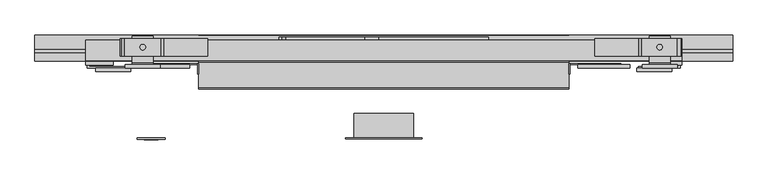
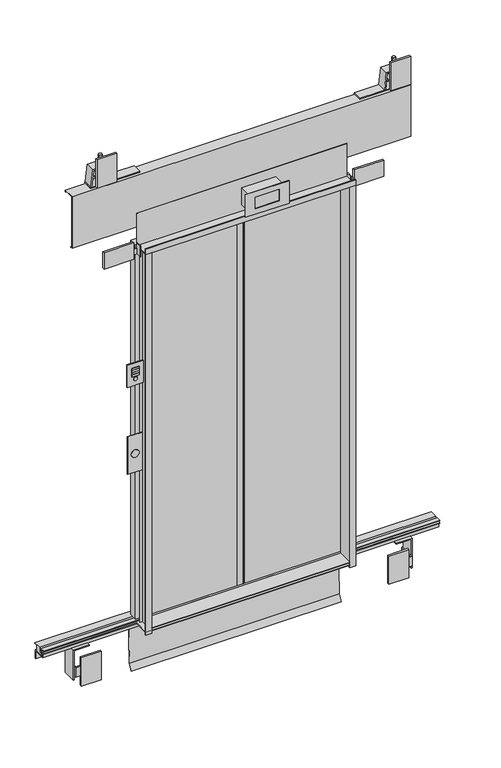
"""IFC4 building model written with IfcOpenShell, lengths in millimetres: proxy geometry, SHLZ_Дверь_0621Е_0411 : SHLZ_Дверь_0621Е_0411."""

from ifc_helpers import new_model, si_unit, point, frame, frame_2d, origin, origin_with_axes, place, context, project, spatial, polyline, circle_curve, trimmed, segment, composite_curve, outline, extrude, faceted_brep, source, transform, mapped, element, save
from ifc_brep_helpers import plane_surface, cylinder_surface, revolved_surface, advanced_brep


def generic_models_938a0e69(model_context):
    return source(origin(), model_context, "Body", "SolidModel", [
        extrude(outline(polyline([(-515.0, 20.0), (-500.0, 20.0), (-500.0, -60.0), (-530.0, -60.0), (-530.0, -57.0), (-503.0, -57.0), (-503.0, 17.0), (-515.0, 17.0), (-515.0, 20.0)])), frame((0.0, 0.0, -30.0), z_axis=(0.0, 0.0, 1.0), x_axis=(1.0, 0.0, 0.0)), (0.0, 0.0, 1.0), 2030.0),
        extrude(outline(polyline([(-57.0, 2030.0), (-57.0, 2003.0), (17.0, 2003.0), (17.0, 2175.0), (20.0, 2175.0), (20.0, 2000.0), (-60.0, 2000.0), (-60.0, 2030.0), (-57.0, 2030.0)])), frame((-530.0, 0.0, 0.0), z_axis=(1.0, 0.0, 0.0), x_axis=(0.0, 1.0, 0.0)), (0.0, 0.0, 1.0), 1060.0),
        extrude(outline(polyline([(-706.3, -200.0), (-626.3, -200.0), (-626.3, -204.0), (-706.3, -204.0), (-706.3, -200.0)])), frame((0.0, 0.0, 1440.0), z_axis=(0.0, 0.0, 1.0), x_axis=(1.0, 0.0, 0.0)), (0.0, 0.0, 1.0), 120.0),
        extrude(outline(composite_curve([segment(trimmed(circle_curve(frame_2d((1476.0113201, -666.3)), 10.0), [point((1476.0113201, -676.3))], [point((1476.0113201, -656.3))], False, "CARTESIAN"), True, "CONTINUOUS"), segment(trimmed(circle_curve(frame_2d((1476.0113201, -666.3)), 10.0), [point((1476.0113201, -656.3))], [point((1476.0113201, -676.3))], False, "CARTESIAN"), True, "CONTINUOUS")], self_intersect=False)), frame((0.0, -206.0, 0.0), z_axis=(0.0, 1.0, 0.0), x_axis=(0.0, 0.0, 1.0)), (0.0, 0.0, 1.0), 2.0),
        extrude(outline(polyline([(-686.3, -206.0), (-686.3, -204.0), (-646.3, -204.0), (-646.3, -206.0), (-686.3, -206.0)])), frame((0.0, 0.0, 1502.3637345), z_axis=(0.0, 0.0, 1.0), x_axis=(1.0, 0.0, 0.0)), (0.0, 0.0, 1.0), 10.0),
        extrude(outline(polyline([(-686.3, -206.0), (-686.3, -204.0), (-646.3, -204.0), (-646.3, -206.0), (-686.3, -206.0)])), frame((0.0, 0.0, 1490.6113201), z_axis=(0.0, 0.0, 1.0), x_axis=(1.0, 0.0, 0.0)), (0.0, 0.0, 1.0), 10.0),
        extrude(outline(polyline([(-686.3, -206.0), (-686.3, -204.0), (-646.3, -204.0), (-646.3, -206.0), (-686.3, -206.0)])), frame((0.0, 0.0, 1514.1161488), z_axis=(0.0, 0.0, 1.0), x_axis=(1.0, 0.0, 0.0)), (0.0, 0.0, 1.0), 10.0),
        extrude(outline(polyline([(-686.3, -206.0), (-686.3, -204.0), (-646.3, -204.0), (-646.3, -206.0), (-686.3, -206.0)])), frame((0.0, 0.0, 1525.8685632), z_axis=(0.0, 0.0, 1.0), x_axis=(1.0, 0.0, 0.0)), (0.0, 0.0, 1.0), 10.0),
        extrude(outline(polyline([(-703.5601691, -202.0), (-703.5601691, -200.0), (-629.0398309, -200.0), (-629.0398309, -202.0), (-703.5601691, -202.0)])), frame((0.0, 0.0, 975.0), z_axis=(0.0, 0.0, 1.0), x_axis=(1.0, 0.0, 0.0)), (0.0, 0.0, 1.0), 200.0),
        extrude(outline(composite_curve([segment(trimmed(circle_curve(frame_2d((1075.0, -666.3)), 20.0), [point((1075.0, -646.3))], [point((1075.0, -686.3))], False, "CARTESIAN"), True, "CONTINUOUS"), segment(trimmed(circle_curve(frame_2d((1075.0, -666.3)), 20.0), [point((1075.0, -686.3))], [point((1075.0, -646.3))], False, "CARTESIAN"), True, "CONTINUOUS")], self_intersect=False)), frame((0.0, -204.0226285, 0.0), z_axis=(0.0, 1.0, 0.0), x_axis=(0.0, 0.0, 1.0)), (0.0, 0.0, 1.0), 2.0226285),
        extrude(outline(polyline([(-706.0, 10.0), (-556.0, 10.0), (-556.0, 0.0), (-706.0, 0.0), (-706.0, 10.0)])), frame((0.0, 0.0, 1949.5), z_axis=(0.0, 0.0, 1.0), x_axis=(1.0, 0.0, 0.0)), (0.0, 0.0, 1.0), 87.0),
        faceted_brep([(-530.0, -17.0, 2021.5), (-533.0, -17.0, 2021.5), (-533.0, -17.0, 1964.5), (-530.0, -17.0, 1964.5), (-680.0, 13.0, 2021.5), (-560.0, 13.0, 2021.5), (-560.0, 13.0, 1994.5), (-533.0, 13.0, 1994.5), (-533.0, 13.0, 2021.5), (-530.0, 13.0, 2021.5), (-530.0, 13.0, 1964.5), (-680.0, 13.0, 1964.5), (-680.0, 10.0, 2021.5), (-560.0, 10.0, 2021.5), (-533.0, 10.0, 1964.5), (-680.0, 10.0, 1964.5), (-533.0, 10.0, 1994.5), (-560.0, 10.0, 1994.5)], [[[0, 1, 2, 3]], [[4, 5, 6, 7, 8, 9, 10, 11]], [[9, 8, 1, 0]], [[12, 13, 5, 4]], [[3, 10, 9, 0]], [[10, 3, 2, 14, 15, 11]], [[11, 15, 12, 4]], [[14, 16, 17, 13, 12, 15]], [[1, 8, 7, 16, 14, 2]], [[7, 6, 17, 16]], [[6, 5, 13, 17]]]),
        extrude(outline(polyline([(706.0, 10.0), (706.0, 0.0), (556.0, 0.0), (556.0, 10.0), (706.0, 10.0)])), frame((0.0, 0.0, 1949.5), z_axis=(0.0, 0.0, 1.0), x_axis=(1.0, 0.0, 0.0)), (0.0, 0.0, 1.0), 87.0),
        faceted_brep([(530.0, -17.0, 2021.5), (530.0, -17.0, 1964.5), (533.0, -17.0, 1964.5), (533.0, -17.0, 2021.5), (680.0, 13.0, 2021.5), (680.0, 13.0, 1964.5), (530.0, 13.0, 1964.5), (530.0, 13.0, 2021.5), (533.0, 13.0, 2021.5), (533.0, 13.0, 1994.5), (560.0, 13.0, 1994.5), (560.0, 13.0, 2021.5), (680.0, 10.0, 2021.5), (560.0, 10.0, 2021.5), (680.0, 10.0, 1964.5), (533.0, 10.0, 1964.5), (560.0, 10.0, 1994.5), (533.0, 10.0, 1994.5)], [[[0, 1, 2, 3]], [[4, 5, 6, 7, 8, 9, 10, 11]], [[12, 4, 11, 13]], [[7, 0, 3, 8]], [[1, 0, 7, 6]], [[6, 5, 14, 15, 2, 1]], [[5, 4, 12, 14]], [[15, 14, 12, 13, 16, 17]], [[3, 2, 15, 17, 9, 8]], [[9, 17, 16, 10]], [[10, 16, 13, 11]]]),
        advanced_brep(
        [(-683.0, 60.0, 2410.0), (-699.0, 60.0, 2410.0), (-699.0, 60.0, 2415.0), (-683.0, 60.0, 2415.0), (-661.0, 92.0, 2410.0), (-661.0, 92.0, 2415.0), (-661.0, 15.0, 2415.0), (-661.0, 15.0, 2530.0), (-661.0, 10.0, 2530.0), (-661.0, 10.0, 2410.0), (-721.0, 92.0, 2415.0), (-721.0, 92.0, 2410.0), (-721.0, 10.0, 2530.0), (-721.0, 15.0, 2530.0), (-721.0, 10.0, 2410.0), (-721.0, 15.0, 2415.0)],
        [
            (0, 1, circle_curve(frame((-691.0, 60.0, 2410.0), z_axis=(0.0, 0.0, -1.0), x_axis=(-1.0, 0.0, 0.0)), 8.0)),
            (1, 2),
            (2, 3, circle_curve(frame((-691.0, 60.0, 2415.0), z_axis=(0.0, 0.0, 1.0), x_axis=(-1.0, 0.0, 0.0)), 8.0)),
            (3, 0),
            (4, 5),
            (5, 6),
            (6, 7),
            (7, 8),
            (8, 9),
            (9, 4),
            (10, 5),
            (4, 11),
            (11, 10),
            (12, 8),
            (7, 13),
            (13, 12),
            (11, 14),
            (14, 12),
            (13, 15),
            (15, 10),
            (15, 6),
            (2, 3, circle_curve(frame((-691.0, 60.0, 2415.0), z_axis=(0.0, 0.0, -1.0), x_axis=(-1.0, 0.0, 0.0)), 8.0)),
            (14, 9),
            (0, 1, circle_curve(frame((-691.0, 60.0, 2410.0), z_axis=(0.0, 0.0, 1.0), x_axis=(-1.0, 0.0, 0.0)), 8.0)),
        ],
        [
            revolved_surface(polyline([(-699.0, 60.0, 2415.0), (-699.0, 60.0, 2410.0)]), (-691.0, 60.0, 2385.0), (0.0, 0.0, 1.0)),
            plane_surface(frame((-661.0, 92.0, 2415.0), z_axis=(1.0, 0.0, 0.0), x_axis=(0.0, 0.0, -1.0))),
            plane_surface(frame((-721.0, 92.0, 2410.0), z_axis=(0.0, 1.0, 0.0), x_axis=(1.0, 0.0, 0.0))),
            plane_surface(frame((-721.0, 15.0, 2530.0), z_axis=(0.0, 0.0, 1.0), x_axis=(1.0, 0.0, 0.0))),
            plane_surface(frame((-721.0, 92.0, 2415.0), z_axis=(-1.0, 0.0, 0.0), x_axis=(0.0, 0.0, 1.0))),
            plane_surface(frame((-721.0, 92.0, 2415.0), z_axis=(0.0, 0.0, 1.0), x_axis=(1.0, 0.0, 0.0))),
            plane_surface(frame((-721.0, 15.0, 2415.0), z_axis=(0.0, 1.0, 0.0), x_axis=(1.0, 0.0, 0.0))),
            plane_surface(frame((-721.0, 10.0, 2530.0), z_axis=(0.0, -1.0, 0.0), x_axis=(1.0, 0.0, 0.0))),
            plane_surface(frame((-721.0, 10.0, 2410.0), z_axis=(0.0, 0.0, -1.0), x_axis=(1.0, 0.0, 0.0))),
        ],
        [
            (0, [[1, 2, 3, 4]]),
            (1, [[5, 6, 7, 8, 9, 10]]),
            (2, [[11, -5, 12, 13]]),
            (3, [[14, -8, 15, 16]]),
            (4, [[17, 18, -16, 19, 20, -13]]),
            (5, [[21, -6, -11, -20], [22, -3]]),
            (6, [[-15, -7, -21, -19]]),
            (7, [[23, -9, -14, -18]]),
            (8, [[-12, -10, -23, -17], [24, -1]]),
            (0, [[-22, -2, -24, -4]]),
        ],
    ),
        extrude(outline(polyline([(-741.0, 10.0), (-641.0, 10.0), (-641.0, 0.0), (-741.0, 0.0), (-741.0, 10.0)])), frame((0.0, 0.0, 2394.0), z_axis=(0.0, 0.0, 1.0), x_axis=(1.0, 0.0, 0.0)), (0.0, 0.0, 1.0), 150.0),
        extrude(outline(polyline([(-755.0, 35.0), (-755.0, 85.0), (-505.0, 85.0), (-505.0, 35.0), (-755.0, 35.0)])), frame((0.0, 0.0, 2375.0), z_axis=(0.0, 0.0, 1.0), x_axis=(1.0, 0.0, 0.0)), (0.0, 0.0, 1.0), 5.0),
        advanced_brep(
        [(-635.0, 35.0, 2380.0), (-635.0, 85.0, 2380.0), (-630.0, 85.0, 2380.0), (-630.0, 35.0, 2380.0), (-699.0, 60.0, 2521.0), (-699.0, 60.0, 2470.0), (-683.0, 60.0, 2470.0), (-683.0, 60.0, 2521.0), (-683.0, 60.0, 2385.0), (-683.0, 60.0, 2465.0), (-699.0, 60.0, 2465.0), (-699.0, 60.0, 2385.0), (-644.3, 35.0, 2465.0), (-639.8470588, 35.0, 2470.0), (-742.1529412, 35.0, 2470.0), (-752.0, 35.0, 2380.0), (-747.0, 35.0, 2380.0), (-737.7, 35.0, 2465.0), (-644.3, 85.0, 2465.0), (-737.7, 85.0, 2465.0), (-747.0, 85.0, 2380.0), (-752.0, 85.0, 2380.0), (-742.1529412, 85.0, 2470.0), (-639.8470588, 85.0, 2470.0)],
        [
            (0, 1),
            (1, 2),
            (2, 3),
            (3, 0),
            (4, 5),
            (5, 6, circle_curve(frame((-691.0, 60.0, 2470.0), z_axis=(0.0, 0.0, 1.0), x_axis=(-1.0, 0.0, 0.0)), 8.0)),
            (6, 7),
            (7, 4, circle_curve(frame((-691.0, 60.0, 2521.0), z_axis=(0.0, 0.0, -1.0), x_axis=(-1.0, 0.0, 0.0)), 8.0)),
            (8, 9),
            (9, 10, circle_curve(frame((-691.0, 60.0, 2465.0), z_axis=(0.0, 0.0, -1.0), x_axis=(-1.0, 0.0, 0.0)), 8.0)),
            (10, 11),
            (11, 8, circle_curve(frame((-691.0, 60.0, 2385.0), z_axis=(0.0, 0.0, 1.0), x_axis=(-1.0, 0.0, 0.0)), 8.0)),
            (6, 5, circle_curve(frame((-691.0, 60.0, 2470.0), z_axis=(0.0, 0.0, 1.0), x_axis=(-1.0, 0.0, 0.0)), 8.0)),
            (4, 7, circle_curve(frame((-691.0, 60.0, 2521.0), z_axis=(0.0, 0.0, -1.0), x_axis=(-1.0, 0.0, 0.0)), 8.0)),
            (10, 9, circle_curve(frame((-691.0, 60.0, 2465.0), z_axis=(0.0, 0.0, -1.0), x_axis=(-1.0, 0.0, 0.0)), 8.0)),
            (8, 11, circle_curve(frame((-691.0, 60.0, 2385.0), z_axis=(0.0, 0.0, 1.0), x_axis=(-1.0, 0.0, 0.0)), 8.0)),
            (12, 0),
            (3, 13),
            (13, 14),
            (14, 15),
            (15, 16),
            (16, 17),
            (17, 12),
            (18, 19),
            (19, 20),
            (20, 21),
            (21, 22),
            (22, 23),
            (23, 2),
            (1, 18),
            (17, 19),
            (18, 12),
            (16, 20),
            (15, 21),
            (14, 22),
            (13, 23),
        ],
        [
            plane_surface(frame((-630.0, 35.0, 2380.0), z_axis=(0.0, 0.0, -1.0), x_axis=(0.0, 1.0, 0.0))),
            cylinder_surface(frame((-691.0, 60.0, 2385.0), z_axis=(0.0, 0.0, 1.0), x_axis=(-1.0, 0.0, 0.0)), 8.0),
            plane_surface(frame((-644.3, 35.0, 2465.0), z_axis=(0.0, -1.0, 0.0), x_axis=(-1.0, 0.0, 0.0))),
            plane_surface(frame((-644.3, 85.0, 2465.0), z_axis=(0.0, 1.0, 0.0), x_axis=(1.0, 0.0, 0.0))),
            plane_surface(frame((-644.3, 35.0, 2465.0), z_axis=(0.0, 0.0, -1.0), x_axis=(0.0, 1.0, 0.0))),
            plane_surface(frame((-737.7, 35.0, 2465.0), z_axis=(0.9940677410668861, 0.0, -0.1087627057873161), x_axis=(0.0, 1.0, 0.0))),
            plane_surface(frame((-747.0, 35.0, 2380.0), z_axis=(0.0, 0.0, -1.0), x_axis=(0.0, 1.0, 0.0))),
            plane_surface(frame((-752.0, 35.0, 2380.0), z_axis=(-0.9940677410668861, 0.0, 0.10876270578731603), x_axis=(0.0, 1.0, 0.0))),
            plane_surface(frame((-742.1529412, 35.0, 2470.0), z_axis=(0.0, 0.0, 1.0), x_axis=(0.0, 1.0, 0.0))),
            plane_surface(frame((-639.8470588, 35.0, 2470.0), z_axis=(0.9940677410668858, 0.0, 0.10876270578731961), x_axis=(0.0, 1.0, 0.0))),
            plane_surface(frame((-635.0, 35.0, 2380.0), z_axis=(-0.9940677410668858, 0.0, -0.10876270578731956), x_axis=(0.0, 1.0, 0.0))),
            plane_surface(frame((-699.0, 60.0, 2521.0), z_axis=(0.0, 0.0, 1.0), x_axis=(0.0, 1.0, 0.0))),
            plane_surface(frame((-699.0, 60.0, 2385.0), z_axis=(0.0, 0.0, -1.0), x_axis=(0.0, -1.0, 0.0))),
        ],
        [
            (0, [[1, 2, 3, 4]]),
            (1, [[5, 6, 7, 8]]),
            (1, [[9, 10, 11, 12]]),
            (1, [[-7, 13, -5, 14]]),
            (1, [[-11, 15, -9, 16]]),
            (2, [[17, -4, 18, 19, 20, 21, 22, 23]]),
            (3, [[24, 25, 26, 27, 28, 29, -2, 30]]),
            (4, [[31, -24, 32, -23], [-15, -10]]),
            (5, [[33, -25, -31, -22]]),
            (6, [[34, -26, -33, -21]]),
            (7, [[35, -27, -34, -20]]),
            (8, [[36, -28, -35, -19], [-13, -6]]),
            (9, [[-3, -29, -36, -18]]),
            (10, [[-32, -30, -1, -17]]),
            (11, [[-14, -8]]),
            (12, [[-12, -16]]),
        ],
    ),
        advanced_brep(
        [(783.0, 60.0, 2410.0), (783.0, 60.0, 2415.0), (799.0, 60.0, 2415.0), (799.0, 60.0, 2410.0), (761.0, 92.0, 2410.0), (761.0, 10.0, 2410.0), (761.0, 10.0, 2530.0), (761.0, 15.0, 2530.0), (761.0, 15.0, 2415.0), (761.0, 92.0, 2415.0), (821.0, 92.0, 2415.0), (821.0, 92.0, 2410.0), (821.0, 10.0, 2530.0), (821.0, 15.0, 2530.0), (821.0, 15.0, 2415.0), (821.0, 10.0, 2410.0)],
        [
            (0, 1),
            (1, 2, circle_curve(frame((791.0, 60.0, 2415.0), z_axis=(0.0, 0.0, 1.0), x_axis=(1.0, 0.0, 0.0)), 8.0)),
            (2, 3),
            (3, 0, circle_curve(frame((791.0, 60.0, 2410.0), z_axis=(0.0, 0.0, -1.0), x_axis=(1.0, 0.0, 0.0)), 8.0)),
            (4, 5),
            (5, 6),
            (6, 7),
            (7, 8),
            (8, 9),
            (9, 4),
            (10, 11),
            (11, 4),
            (9, 10),
            (12, 13),
            (13, 7),
            (6, 12),
            (10, 14),
            (14, 13),
            (12, 15),
            (15, 11),
            (8, 14),
            (1, 2, circle_curve(frame((791.0, 60.0, 2415.0), z_axis=(0.0, 0.0, -1.0), x_axis=(1.0, 0.0, 0.0)), 8.0)),
            (5, 15),
            (3, 0, circle_curve(frame((791.0, 60.0, 2410.0), z_axis=(0.0, 0.0, 1.0), x_axis=(1.0, 0.0, 0.0)), 8.0)),
        ],
        [
            revolved_surface(polyline([(799.0, 60.0, 2415.0), (799.0, 60.0, 2410.0)]), (791.0, 60.0, 2385.0), (0.0, 0.0, 1.0)),
            plane_surface(frame((761.0, 92.0, 2415.0), z_axis=(-1.0, 0.0, 0.0), x_axis=(0.0, 0.0, -1.0))),
            plane_surface(frame((821.0, 92.0, 2410.0), z_axis=(0.0, 1.0, 0.0), x_axis=(-1.0, 0.0, 0.0))),
            plane_surface(frame((821.0, 15.0, 2530.0), z_axis=(0.0, 0.0, 1.0), x_axis=(-1.0, 0.0, 0.0))),
            plane_surface(frame((821.0, 92.0, 2415.0), z_axis=(1.0, 0.0, 0.0), x_axis=(0.0, 0.0, 1.0))),
            plane_surface(frame((821.0, 92.0, 2415.0), z_axis=(0.0, 0.0, 1.0), x_axis=(-1.0, 0.0, 0.0))),
            plane_surface(frame((821.0, 15.0, 2415.0), z_axis=(0.0, 1.0, 0.0), x_axis=(-1.0, 0.0, 0.0))),
            plane_surface(frame((821.0, 10.0, 2530.0), z_axis=(0.0, -1.0, 0.0), x_axis=(-1.0, 0.0, 0.0))),
            plane_surface(frame((821.0, 10.0, 2410.0), z_axis=(0.0, 0.0, -1.0), x_axis=(-1.0, 0.0, 0.0))),
        ],
        [
            (0, [[1, 2, 3, 4]]),
            (1, [[5, 6, 7, 8, 9, 10]]),
            (2, [[11, 12, -10, 13]]),
            (3, [[14, 15, -7, 16]]),
            (4, [[-11, 17, 18, -14, 19, 20]]),
            (5, [[-17, -13, -9, 21], [-2, 22]]),
            (6, [[-18, -21, -8, -15]]),
            (7, [[-19, -16, -6, 23]]),
            (8, [[-20, -23, -5, -12], [-4, 24]]),
            (0, [[-1, -24, -3, -22]]),
        ],
    ),
        extrude(outline(polyline([(841.0, 10.0), (841.0, 0.0), (741.0, 0.0), (741.0, 10.0), (841.0, 10.0)])), frame((0.0, 0.0, 2394.0), z_axis=(0.0, 0.0, 1.0), x_axis=(1.0, 0.0, 0.0)), (0.0, 0.0, 1.0), 150.0),
        extrude(outline(polyline([(855.0, 35.0), (605.0, 35.0), (605.0, 85.0), (855.0, 85.0), (855.0, 35.0)])), frame((0.0, 0.0, 2375.0), z_axis=(0.0, 0.0, 1.0), x_axis=(1.0, 0.0, 0.0)), (0.0, 0.0, 1.0), 5.0),
        advanced_brep(
        [(735.0, 35.0, 2380.0), (730.0, 35.0, 2380.0), (730.0, 85.0, 2380.0), (735.0, 85.0, 2380.0), (799.0, 60.0, 2521.0), (783.0, 60.0, 2521.0), (783.0, 60.0, 2470.0), (799.0, 60.0, 2470.0), (783.0, 60.0, 2385.0), (799.0, 60.0, 2385.0), (799.0, 60.0, 2465.0), (783.0, 60.0, 2465.0), (744.3, 35.0, 2465.0), (837.7, 35.0, 2465.0), (847.0, 35.0, 2380.0), (852.0, 35.0, 2380.0), (842.1529412, 35.0, 2470.0), (739.8470588, 35.0, 2470.0), (744.3, 85.0, 2465.0), (739.8470588, 85.0, 2470.0), (842.1529412, 85.0, 2470.0), (852.0, 85.0, 2380.0), (847.0, 85.0, 2380.0), (837.7, 85.0, 2465.0)],
        [
            (0, 1),
            (1, 2),
            (2, 3),
            (3, 0),
            (4, 5, circle_curve(frame((791.0, 60.0, 2521.0), z_axis=(0.0, 0.0, -1.0), x_axis=(1.0, 0.0, 0.0)), 8.0)),
            (5, 6),
            (6, 7, circle_curve(frame((791.0, 60.0, 2470.0), z_axis=(0.0, 0.0, 1.0), x_axis=(1.0, 0.0, 0.0)), 8.0)),
            (7, 4),
            (8, 9, circle_curve(frame((791.0, 60.0, 2385.0), z_axis=(0.0, 0.0, 1.0), x_axis=(1.0, 0.0, 0.0)), 8.0)),
            (9, 10),
            (10, 11, circle_curve(frame((791.0, 60.0, 2465.0), z_axis=(0.0, 0.0, -1.0), x_axis=(1.0, 0.0, 0.0)), 8.0)),
            (11, 8),
            (5, 4, circle_curve(frame((791.0, 60.0, 2521.0), z_axis=(0.0, 0.0, -1.0), x_axis=(1.0, 0.0, 0.0)), 8.0)),
            (7, 6, circle_curve(frame((791.0, 60.0, 2470.0), z_axis=(0.0, 0.0, 1.0), x_axis=(1.0, 0.0, 0.0)), 8.0)),
            (9, 8, circle_curve(frame((791.0, 60.0, 2385.0), z_axis=(0.0, 0.0, 1.0), x_axis=(1.0, 0.0, 0.0)), 8.0)),
            (11, 10, circle_curve(frame((791.0, 60.0, 2465.0), z_axis=(0.0, 0.0, -1.0), x_axis=(1.0, 0.0, 0.0)), 8.0)),
            (12, 13),
            (13, 14),
            (14, 15),
            (15, 16),
            (16, 17),
            (17, 1),
            (0, 12),
            (18, 3),
            (2, 19),
            (19, 20),
            (20, 21),
            (21, 22),
            (22, 23),
            (23, 18),
            (12, 18),
            (23, 13),
            (22, 14),
            (21, 15),
            (20, 16),
            (19, 17),
        ],
        [
            plane_surface(frame((730.0, 35.0, 2380.0), z_axis=(0.0, 0.0, -1.0), x_axis=(0.0, 1.0, 0.0))),
            cylinder_surface(frame((791.0, 60.0, 2385.0), z_axis=(0.0, 0.0, 1.0), x_axis=(1.0, 0.0, 0.0)), 8.0),
            plane_surface(frame((744.3, 35.0, 2465.0), z_axis=(0.0, -1.0, 0.0), x_axis=(1.0, 0.0, 0.0))),
            plane_surface(frame((744.3, 85.0, 2465.0), z_axis=(0.0, 1.0, 0.0), x_axis=(-1.0, 0.0, 0.0))),
            plane_surface(frame((744.3, 35.0, 2465.0), z_axis=(0.0, 0.0, -1.0), x_axis=(0.0, 1.0, 0.0))),
            plane_surface(frame((837.7, 35.0, 2465.0), z_axis=(-0.9940677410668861, 0.0, -0.1087627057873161), x_axis=(0.0, 1.0, 0.0))),
            plane_surface(frame((847.0, 35.0, 2380.0), z_axis=(0.0, 0.0, -1.0), x_axis=(0.0, 1.0, 0.0))),
            plane_surface(frame((852.0, 35.0, 2380.0), z_axis=(0.9940677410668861, 0.0, 0.10876270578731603), x_axis=(0.0, 1.0, 0.0))),
            plane_surface(frame((842.1529412, 35.0, 2470.0), z_axis=(0.0, 0.0, 1.0), x_axis=(0.0, 1.0, 0.0))),
            plane_surface(frame((739.8470588, 35.0, 2470.0), z_axis=(-0.9940677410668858, 0.0, 0.10876270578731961), x_axis=(0.0, 1.0, 0.0))),
            plane_surface(frame((735.0, 35.0, 2380.0), z_axis=(0.9940677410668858, 0.0, -0.10876270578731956), x_axis=(0.0, 1.0, 0.0))),
            plane_surface(frame((799.0, 60.0, 2521.0), z_axis=(0.0, 0.0, 1.0), x_axis=(0.0, 1.0, 0.0))),
            plane_surface(frame((799.0, 60.0, 2385.0), z_axis=(0.0, 0.0, -1.0), x_axis=(0.0, -1.0, 0.0))),
        ],
        [
            (0, [[1, 2, 3, 4]]),
            (1, [[5, 6, 7, 8]]),
            (1, [[9, 10, 11, 12]]),
            (1, [[13, -8, 14, -6]]),
            (1, [[15, -12, 16, -10]]),
            (2, [[17, 18, 19, 20, 21, 22, -1, 23]]),
            (3, [[24, -3, 25, 26, 27, 28, 29, 30]]),
            (4, [[-17, 31, -30, 32], [-11, -16]]),
            (5, [[-18, -32, -29, 33]]),
            (6, [[-19, -33, -28, 34]]),
            (7, [[-20, -34, -27, 35]]),
            (8, [[-21, -35, -26, 36], [-7, -14]]),
            (9, [[-22, -36, -25, -2]]),
            (10, [[-23, -4, -24, -31]]),
            (11, [[-5, -13]]),
            (12, [[-15, -9]]),
        ],
    ),
        faceted_brep([(-280.0, 88.6, 2315.9), (-280.0, 26.1, 2315.9), (-55.4145188, 26.1, 2315.9), (-55.4145188, 88.6, 2315.9), (-300.0, 26.1, 2070.9), (-300.0, 88.6, 2070.9), (300.0, 88.6, 2070.9), (300.0, 26.1, 2070.9), (-300.0, 26.1, 2155.010593), (-300.0, 58.6, 2155.010593), (-300.0, 58.6, 2203.7582474), (-300.0, 26.1, 2203.7582474), (-300.0, 26.1, 2245.9), (-300.0, 88.6, 2245.9), (-292.3428886, 88.6, 2245.9), (-15.0, 88.6, 2245.9), (300.0, 88.6, 2245.9), (300.0, 26.1, 2245.9), (300.0, 26.1, 2203.7582474), (300.0, 58.6, 2203.7582474), (300.0, 58.6, 2155.010593), (300.0, 26.1, 2155.010593), (-292.3428886, 26.1, 2245.9), (-15.0, 26.1, 2245.9)], [[[0, 1, 2, 3]], [[4, 5, 6, 7]], [[4, 8, 9, 10, 11, 12, 13, 5]], [[5, 13, 14, 0, 3, 15, 16, 6]], [[6, 16, 17, 18, 19, 20, 21, 7]], [[7, 21, 8, 4]], [[1, 22, 12, 11, 18, 17, 23, 2]], [[15, 3, 2, 23]], [[23, 17, 16, 15]], [[14, 13, 12, 22]], [[22, 1, 0, 14]], [[9, 8, 21, 20]], [[20, 19, 10, 9]], [[19, 18, 11, 10]]]),
        extrude(outline(polyline([(800.0, 50.0), (800.0, 40.0), (-775.0, 40.0), (-775.0, 50.0), (800.0, 50.0)])), frame((0.0, 0.0, 2158.0), z_axis=(0.0, 0.0, 1.0), x_axis=(1.0, 0.0, 0.0)), (0.0, 0.0, 1.0), 40.0),
        extrude(outline(polyline([(31.1, 2102.0), (31.1, 2100.0), (21.1, 2100.0), (21.1, 2375.0), (80.1, 2375.0), (80.1, 2365.0), (78.1, 2365.0), (78.1, 2373.0), (23.1, 2373.0), (23.1, 2102.0), (31.1, 2102.0)])), frame((-855.0, 0.0, 0.0), z_axis=(1.0, 0.0, 0.0), x_axis=(0.0, 1.0, 0.0)), (0.0, 0.0, 1.0), 1710.0),
        extrude(outline(polyline([(-18.75, 70.3), (-18.75, 30.3), (-530.0, 30.3), (-530.0, 70.3), (-18.75, 70.3)])), origin_with_axes(), (0.0, 0.0, 1.0), 2000.0),
        extrude(outline(polyline([(18.75, 30.3), (18.75, 70.3), (530.0, 70.3), (530.0, 30.3), (18.75, 30.3)])), origin_with_axes(), (0.0, 0.0, 1.0), 2000.0),
        extrude(outline(polyline([(-43.0, -775.0), (-38.0, -775.0), (-38.0, -855.0), (-198.0, -855.0), (-198.0, -850.0), (-43.0, -850.0), (-43.0, -775.0)])), frame((0.0, 9.5536677, 0.0), z_axis=(0.0, 1.0, 0.0), x_axis=(0.0, 0.0, 1.0)), (0.0, 0.0, 1.0), 70.0),
        extrude(outline(polyline([(-730.0, 0.0), (-850.0, 0.0), (-850.0, 82.0), (-845.0, 82.0), (-845.0, 5.0), (-730.0, 5.0), (-730.0, 0.0)])), frame((0.0, 0.0, -178.0), z_axis=(0.0, 0.0, 1.0), x_axis=(1.0, 0.0, 0.0)), (0.0, 0.0, 1.0), 50.0),
        extrude(outline(polyline([(-826.0, 0.0), (-726.0, 0.0), (-726.0, -10.0), (-826.0, -10.0), (-826.0, 0.0)])), frame((0.0, 0.0, -228.0), z_axis=(0.0, 0.0, 1.0), x_axis=(1.0, 0.0, 0.0)), (0.0, 0.0, 1.0), 150.0),
        extrude(outline(polyline([(-43.0, 775.0), (-43.0, 850.0), (-198.0, 850.0), (-198.0, 855.0), (-38.0, 855.0), (-38.0, 775.0), (-43.0, 775.0)])), frame((0.0, 9.5536677, 0.0), z_axis=(0.0, 1.0, 0.0), x_axis=(0.0, 0.0, 1.0)), (0.0, 0.0, 1.0), 70.0),
        extrude(outline(polyline([(730.0, 0.0), (730.0, 5.0), (845.0, 5.0), (845.0, 82.0), (850.0, 82.0), (850.0, 0.0), (730.0, 0.0)])), frame((0.0, 0.0, -178.0), z_axis=(0.0, 0.0, 1.0), x_axis=(1.0, 0.0, 0.0)), (0.0, 0.0, 1.0), 50.0),
        extrude(outline(polyline([(826.0, 0.0), (826.0, -10.0), (726.0, -10.0), (726.0, 0.0), (826.0, 0.0)])), frame((0.0, 0.0, -228.0), z_axis=(0.0, 0.0, 1.0), x_axis=(1.0, 0.0, 0.0)), (0.0, 0.0, 1.0), 150.0),
        extrude(outline(polyline([(20.0, -3.0), (20.0, 0.0), (43.0675256, 0.0), (43.0675256, -20.0), (54.3, -20.0), (54.3, 0.0), (95.0, 0.0), (95.0, -3.0), (80.0, -3.0), (80.0, -35.0), (34.5, -35.0), (34.5, -3.0), (20.0, -3.0)])), frame((-1000.0, 0.0, 0.0), z_axis=(1.0, 0.0, 0.0), x_axis=(0.0, 1.0, 0.0)), (0.0, 0.0, 1.0), 2000.0),
        faceted_brep([(1000.0, 27.0, -16.0), (1000.0, 27.0, -38.0), (1000.0, 90.0, -38.0), (1000.0, 90.0, -39.4535449), (1000.0, 88.5840866, -80.0), (1000.0, 91.4805978, -80.0), (1000.0, 93.0, -36.4900133), (1000.0, 93.0, -35.0), (1000.0, 30.0, -35.0), (1000.0, 30.0, -13.0), (1000.0, 20.0, -13.0), (1000.0, 20.0, -16.0), (-1000.0, 30.0, -13.0), (-1000.0, 30.0, -35.0), (-1000.0, 93.0, -35.0), (-1000.0, 93.0, -36.4900133), (-1000.0, 91.4805978, -80.0), (-1000.0, 88.5840866, -80.0), (-1000.0, 90.0, -39.4535449), (-1000.0, 90.0, -38.0), (-1000.0, 27.0, -38.0), (-1000.0, 27.0, -16.0), (-1000.0, 20.0, -16.0), (-1000.0, 20.0, -13.0), (-530.0, -60.0, -13.0), (-530.0, -60.0, -16.0), (500.0, -60.0, -16.0), (500.0, -60.0, -13.0), (530.0, 20.0, -16.0), (530.0, -57.0, -16.0), (503.0, -57.0, -16.0), (503.0, 17.0, -16.0), (515.0, 17.0, -16.0), (515.0, 20.0, -16.0), (500.0, 20.0, -16.0), (-530.0, 20.0, -16.0), (-530.0, 20.0, -13.0), (500.0, 20.0, -13.0), (515.0, 20.0, -13.0), (515.0, 17.0, -13.0), (503.0, 17.0, -13.0), (503.0, -57.0, -13.0), (530.0, -57.0, -13.0), (530.0, 20.0, -13.0)], [[[0, 1, 2, 3, 4, 5, 6, 7, 8, 9, 10, 11]], [[12, 13, 14, 15, 16, 17, 18, 19, 20, 21, 22, 23]], [[24, 25, 26, 27]], [[21, 0, 11, 28, 29, 30, 31, 32, 33, 34, 26, 25, 35, 22]], [[1, 0, 21, 20]], [[2, 1, 20, 19]], [[8, 7, 14, 13]], [[9, 8, 13, 12]], [[9, 12, 23, 36, 24, 27, 37, 38, 39, 40, 41, 42, 43, 10]], [[3, 2, 19, 18]], [[4, 3, 18, 17]], [[5, 4, 17, 16]], [[6, 5, 16, 15]], [[7, 6, 15, 14]], [[11, 10, 43, 28]], [[28, 43, 42, 29]], [[23, 22, 35, 36]], [[25, 24, 36, 35]], [[33, 38, 37, 34]], [[34, 37, 27, 26]], [[41, 30, 29, 42]], [[30, 41, 40, 31]], [[31, 40, 39, 32]], [[38, 33, 32, 39]]]),
        faceted_brep([(515.0, 20.0, 2000.0), (500.0, 20.0, 2000.0), (500.0, -60.0, 2000.0), (530.0, -60.0, 2000.0), (530.0, -57.0, 2000.0), (503.0, -57.0, 2000.0), (503.0, 17.0, 2000.0), (515.0, 17.0, 2000.0), (515.0, 20.0, -30.0), (515.0, 17.0, -30.0), (503.0, 17.0, -30.0), (503.0, -57.0, -30.0), (530.0, -57.0, -30.0), (530.0, -60.0, -30.0), (500.0, -60.0, -30.0), (500.0, 20.0, -30.0), (515.0, 20.0, -13.0), (515.0, 20.0, -16.0), (500.0, 20.0, -16.0), (500.0, 20.0, -13.0), (500.0, -60.0, -16.0), (500.0, -60.0, -13.0), (530.0, -57.0, -16.0), (530.0, -57.0, -13.0), (503.0, -57.0, -16.0), (503.0, -57.0, -13.0), (503.0, 17.0, -16.0), (503.0, 17.0, -13.0), (515.0, 17.0, -16.0), (515.0, 17.0, -13.0)], [[[0, 1, 2, 3, 4, 5, 6, 7]], [[8, 9, 10, 11, 12, 13, 14, 15]], [[1, 0, 16, 17, 8, 15, 18, 19]], [[2, 1, 19, 18, 15, 14, 20, 21]], [[3, 2, 21, 20, 14, 13]], [[4, 3, 13, 12, 22, 23]], [[5, 4, 23, 22, 12, 11, 24, 25]], [[6, 5, 25, 24, 11, 10, 26, 27]], [[7, 6, 27, 26, 10, 9, 28, 29]], [[0, 7, 29, 28, 9, 8, 17, 16]]]),
        faceted_brep([(110.0, -204.0, 2260.0), (-110.0, -204.0, 2260.0), (-110.0, -204.0, 2140.0), (110.0, -204.0, 2140.0), (60.0, -204.0, 2230.0), (60.0, -204.0, 2170.0), (-60.0, -204.0, 2170.0), (-60.0, -204.0, 2230.0), (110.0, -200.0, 2260.0), (110.0, -200.0, 2140.0), (-110.0, -200.0, 2140.0), (-110.0, -200.0, 2260.0), (60.0, -202.0, 2230.0), (-60.0, -202.0, 2230.0), (-60.0, -202.0, 2170.0), (60.0, -202.0, 2170.0)], [[[0, 1, 2, 3], [4, 5, 6, 7]], [[8, 9, 10, 11]], [[1, 0, 8, 11]], [[2, 1, 11, 10]], [[3, 2, 10, 9]], [[0, 3, 9, 8]], [[12, 13, 14, 15]], [[12, 15, 5, 4]], [[15, 14, 6, 5]], [[14, 13, 7, 6]], [[13, 12, 4, 7]]]),
        extrude(outline(polyline([(85.0, -200.0), (-85.0, -200.0), (-85.0, -130.0), (85.0, -130.0), (85.0, -200.0)])), frame((0.0, 0.0, 2155.0), z_axis=(0.0, 0.0, 1.0), x_axis=(1.0, 0.0, 0.0)), (0.0, 0.0, 1.0), 90.0),
        extrude(outline(polyline([(83.6, -5.9), (83.6, -4.6), (95.5, -5.0), (84.0779681, -266.8), (68.8020559, -299.0), (67.5458628, -299.0), (82.821775, -266.8), (94.3, -6.3), (83.6, -5.9)])), frame((-530.0, 0.0, 0.0), z_axis=(1.0, 0.0, 0.0), x_axis=(0.0, 1.0, 0.0)), (0.0, 0.0, 1.0), 1060.0),
        extrude(outline(polyline([(500.0, 20.0), (500.0, -60.0), (-500.0, -60.0), (-500.0, 20.0), (500.0, 20.0)])), frame((0.0, 0.0, -3.0), z_axis=(0.0, 0.0, 1.0), x_axis=(1.0, 0.0, 0.0)), (0.0, 0.0, 1.0), 3.0),
        extrude(outline(polyline([(13.45, 30.3), (13.45, 32.3), (18.75, 32.3), (18.75, 30.3), (13.45, 30.3)])), origin_with_axes(), (0.0, 0.0, 1.0), 2000.0),
        extrude(outline(polyline([(-18.75, 30.3), (-18.75, 32.3), (11.25, 32.3), (11.25, 30.3), (-18.75, 30.3)])), origin_with_axes(), (0.0, 0.0, 1.0), 2000.0),
    ])


if __name__ == "__main__":
    model = new_model("IFC4")
    model_context = context("Model", 3, world=origin())
    ifc_project = project(units=[si_unit("LENGTHUNIT", "METRE", prefix="MILLI")], contexts=[model_context])
    site = spatial("IfcSite", under=ifc_project)
    building = spatial("IfcBuilding", under=site)
    placement = place(None, origin())
    generic_models_shape = generic_models_938a0e69(model_context)
    element("IfcBuildingElementProxy", 1, Name="SHLZ_Дверь_0621Е_0411 : SHLZ_Дверь_0621Е_0411", ObjectType="SHLZ_Дверь_0621Е_0411 : SHLZ_Дверь_0621Е_0411", at=placement, inside=building, context=model_context, shape_type="MappedRepresentation", body=[
        mapped(generic_models_shape, transform((0.0, 0.0, 0.0), x_axis=(1.0, 0.0, 0.0), y_axis=(0.0, 1.0, 0.0), z_axis=(0.0, 0.0, 1.0))),
    ])
    save(model, "model.ifc")
